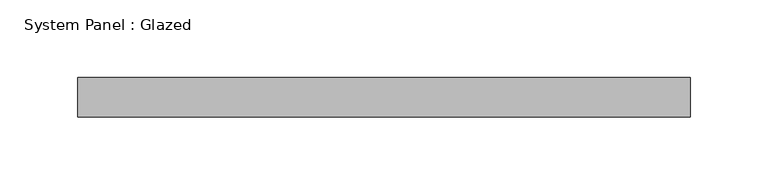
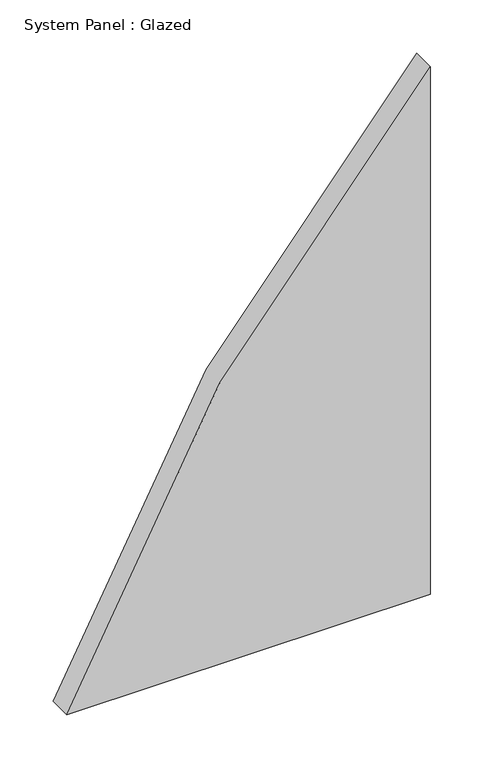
"""IFC4 building model written with IfcOpenShell, lengths in millimetres: plate geometry, System Panel : Glazed."""

from ifc_helpers import new_model, si_unit, point, frame, frame_2d, origin, place, context, project, spatial, polyline, circle_curve, trimmed, segment, composite_curve, outline, extrude, source, transform, mapped, element, save


def system_panel_glazed_0a7c89d8(model_context):
    return source(origin(), model_context, "Body", "SweptSolid", [
        extrude(outline(composite_curve([segment(polyline([(0.0, -196.8622586), (0.0, 196.8622586), (604.2053731, 196.8622586)]), True, "CONTINUOUS"), segment(trimmed(circle_curve(frame_2d((-641.35, 1447.8122586)), 1765.3), [point((604.2053731, 196.8622586))], [point((0.0, -196.8622586))], False, "CARTESIAN"), True, "CONTINUOUS")], self_intersect=False)), frame((0.0, -44.45, 0.0), z_axis=(0.0, 1.0, 0.0), x_axis=(0.0, 0.0, 1.0)), (0.0, 0.0, 1.0), 25.4),
    ])


if __name__ == "__main__":
    model = new_model("IFC4")
    model_context = context("Model", 3, world=origin())
    ifc_project = project(units=[si_unit("LENGTHUNIT", "METRE", prefix="MILLI")], contexts=[model_context])
    site = spatial("IfcSite", under=ifc_project)
    building = spatial("IfcBuilding", under=site)
    placement = place(None, origin())
    system_panel_glazed_shape = system_panel_glazed_0a7c89d8(model_context)
    element("IfcPlate", 1, ObjectType="System Panel : Glazed", at=placement, inside=building, context=model_context, shape_type="MappedRepresentation", body=[
        mapped(system_panel_glazed_shape, transform((0.0, 0.0, 0.0), x_axis=(1.0, 0.0, 0.0), y_axis=(0.0, 1.0, 0.0), z_axis=(0.0, 0.0, 1.0))),
    ])
    save(model, "model.ifc")
